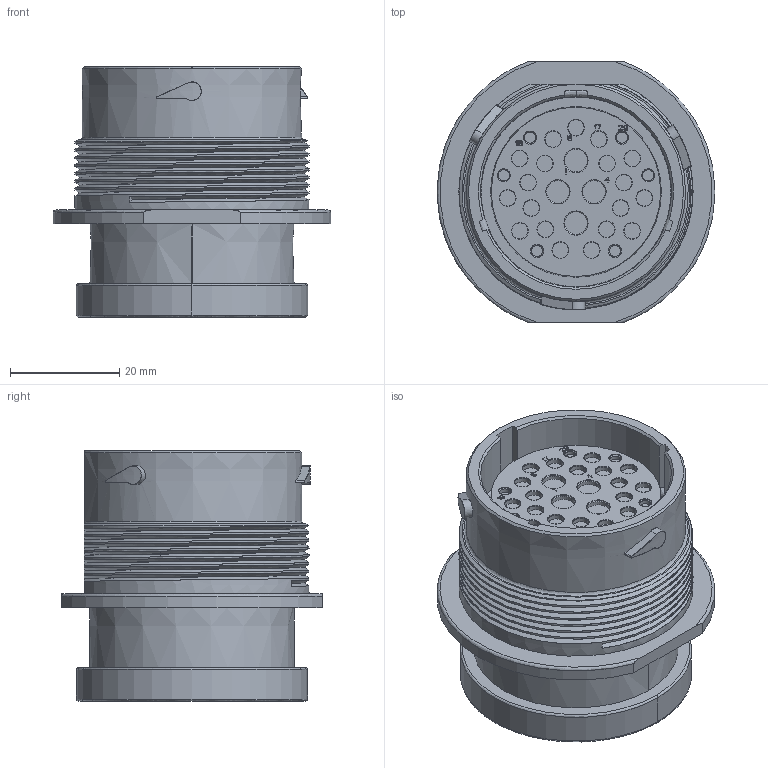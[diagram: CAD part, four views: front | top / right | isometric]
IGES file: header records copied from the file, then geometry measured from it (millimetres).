
Start section:  PTC IGES file: c-hdp24-24-29se-l017-99-3d.igs
Global section: file name: c-hdp24-24-29se-l017-99-3d.igs; native system: Pro/ENGINEER by Parametric Technology Corporation; preprocessor: 2011490; author: workeradm; organization: Unknown; units: millimetre
Bounding box: 50.8 x 47.62 x 45.77 mm (x, y, z)
Surface area: 15841 mm2 (no closed solid volume)
Topology: 0 solids, 0 shells, 822 faces, 3838 edges, 3838 vertices
Faces by surface type: revolution 412, bspline 410
